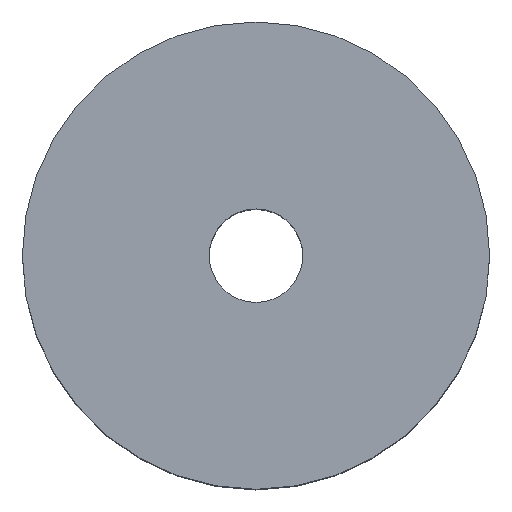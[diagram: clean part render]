
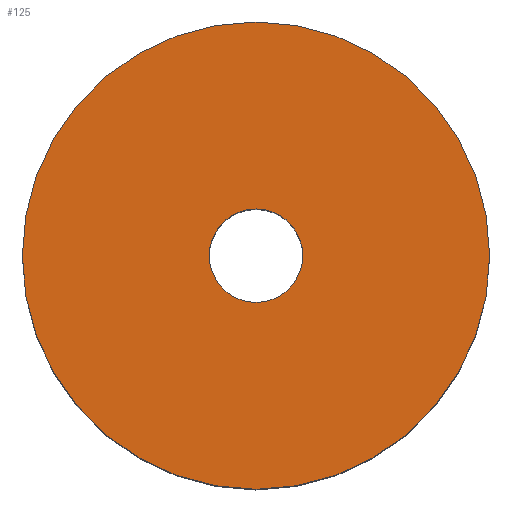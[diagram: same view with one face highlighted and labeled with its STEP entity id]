
A CAD part, top view. The second image highlights one B-rep face of the part: STEP entity #125.
In plain terms, the highlighted planar face has unit normal (0, 0, 1).
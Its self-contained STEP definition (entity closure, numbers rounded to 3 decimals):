
#125=ADVANCED_FACE('',(#137,#138),#135,.T.);
#135=PLANE('',#244);
#137=FACE_BOUND('',#141,.T.);
#138=FACE_BOUND('',#142,.T.);
#141=EDGE_LOOP('',(#153,#154));
#142=EDGE_LOOP('',(#155,#156));
#153=ORIENTED_EDGE('',*,*,#205,.T.);
#154=ORIENTED_EDGE('',*,*,#206,.T.);
#155=ORIENTED_EDGE('',*,*,#207,.F.);
#156=ORIENTED_EDGE('',*,*,#208,.F.);
#193=VERTEX_POINT('',#322);
#194=VERTEX_POINT('',#323);
#195=VERTEX_POINT('',#326);
#196=VERTEX_POINT('',#327);
#205=EDGE_CURVE('',#193,#194,#225,.T.);
#206=EDGE_CURVE('',#194,#193,#226,.T.);
#207=EDGE_CURVE('',#195,#196,#227,.T.);
#208=EDGE_CURVE('',#196,#195,#228,.T.);
#225=CIRCLE('',#240,50.);
#226=CIRCLE('',#241,50.);
#227=CIRCLE('',#242,10.);
#228=CIRCLE('',#243,10.);
#240=AXIS2_PLACEMENT_3D('',#321,#266,#267);
#241=AXIS2_PLACEMENT_3D('',#324,#268,#269);
#242=AXIS2_PLACEMENT_3D('',#325,#270,#271);
#243=AXIS2_PLACEMENT_3D('',#328,#272,#273);
#244=AXIS2_PLACEMENT_3D('',#329,#274,#275);
#266=DIRECTION('',(0.,0.,1.));
#267=DIRECTION('',(0.,1.,0.));
#268=DIRECTION('',(0.,0.,1.));
#269=DIRECTION('',(0.,-1.,0.));
#270=DIRECTION('',(0.,0.,1.));
#271=DIRECTION('',(0.,-1.,0.));
#272=DIRECTION('',(0.,0.,1.));
#273=DIRECTION('',(0.,1.,0.));
#274=DIRECTION('',(0.,0.,1.));
#275=DIRECTION('',(0.,1.,0.));
#321=CARTESIAN_POINT('',(0.,0.,82.));
#322=CARTESIAN_POINT('',(-50.,0.,82.));
#323=CARTESIAN_POINT('',(50.,0.,82.));
#324=CARTESIAN_POINT('',(0.,0.,82.));
#325=CARTESIAN_POINT('',(0.,0.,82.));
#326=CARTESIAN_POINT('',(10.,0.,82.));
#327=CARTESIAN_POINT('',(-10.,0.,82.));
#328=CARTESIAN_POINT('',(0.,0.,82.));
#329=CARTESIAN_POINT('',(0.,0.,82.));
